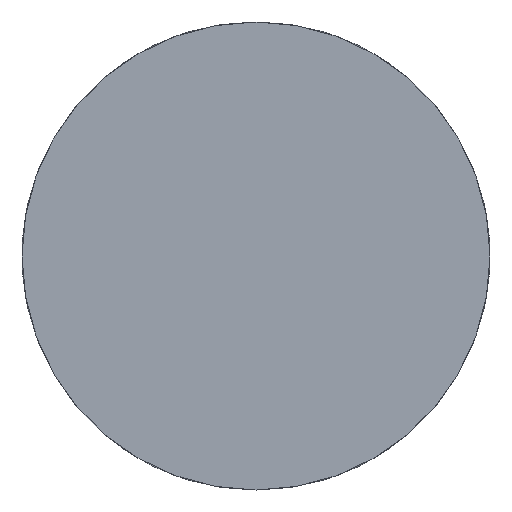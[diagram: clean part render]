
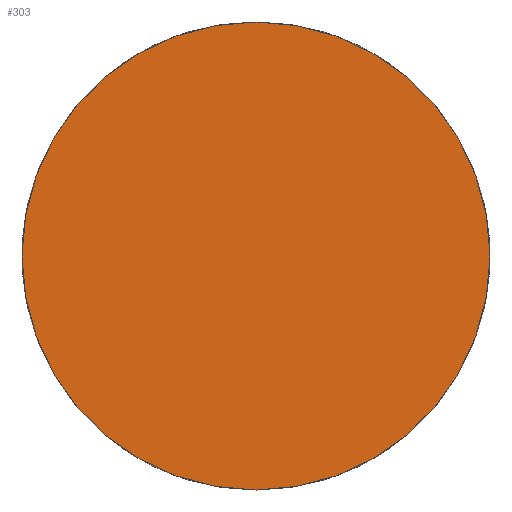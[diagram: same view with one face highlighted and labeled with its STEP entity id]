
A CAD part, left-side view. The second image highlights one B-rep face of the part: STEP entity #303.
In plain terms, the highlighted planar face has unit normal (-1, 0, 0).
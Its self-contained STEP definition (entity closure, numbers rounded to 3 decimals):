
#303 = ADVANCED_FACE( '', ( #632 ), #633, .F. );
#632 = FACE_OUTER_BOUND( '', #985, .T. );
#633 = PLANE( '', #986 );
#985 = EDGE_LOOP( '', ( #1882 ) );
#986 = AXIS2_PLACEMENT_3D( '', #1883, #1884, #1885 );
#1882 = ORIENTED_EDGE( '', *, *, #2612, .F. );
#1883 = CARTESIAN_POINT( '', ( 0., 0., 0. ) );
#1884 = DIRECTION( '', ( 1., 0., 0. ) );
#1885 = DIRECTION( '', ( 0., 0., -1. ) );
#2612 = EDGE_CURVE( '', #3282, #3282, #3283, .T. );
#3282 = VERTEX_POINT( '', #4142 );
#3283 = CIRCLE( '', #4143, 6.305 );
#4142 = CARTESIAN_POINT( '', ( 0., 0., -6.305 ) );
#4143 = AXIS2_PLACEMENT_3D( '', #4785, #4786, #4787 );
#4785 = CARTESIAN_POINT( '', ( 0., 0., 0. ) );
#4786 = DIRECTION( '', ( 1., 0., 0. ) );
#4787 = DIRECTION( '', ( 0., 0., -1. ) );
